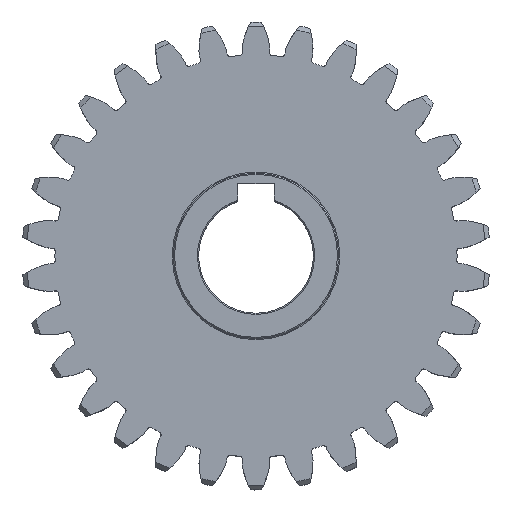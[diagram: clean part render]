
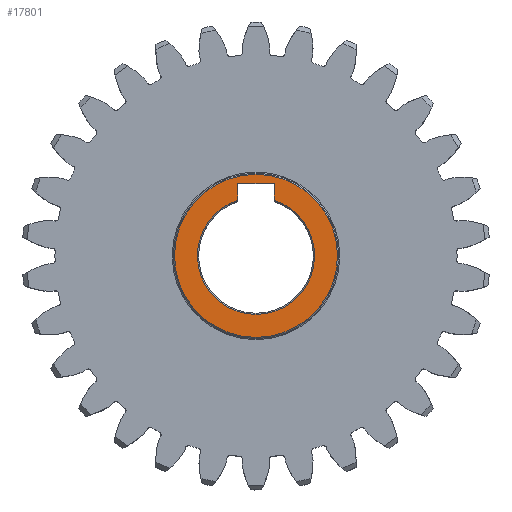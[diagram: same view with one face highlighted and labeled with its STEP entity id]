
A CAD part, top view. The second image highlights one B-rep face of the part: STEP entity #17801.
In plain terms, the highlighted planar face has unit normal (0, 0, 1).
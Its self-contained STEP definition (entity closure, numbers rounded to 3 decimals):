
#922 = EDGE_CURVE ( 'NONE', #5197, #4122, #15928, .T. ) ;
#925 = DIRECTION ( 'NONE',  ( 0., 0., 1. ) ) ;
#937 = CARTESIAN_POINT ( 'NONE',  ( -4., 9.2, 15. ) ) ;
#1031 = AXIS2_PLACEMENT_3D ( 'NONE', #1619, #18072, #15103 ) ;
#1204 = CARTESIAN_POINT ( 'NONE',  ( -4., 15.8, 15. ) ) ;
#1619 = CARTESIAN_POINT ( 'NONE',  ( 0., 0., 15. ) ) ;
#1630 = CARTESIAN_POINT ( 'NONE',  ( -17.75, 0., 15. ) ) ;
#1702 = CIRCLE ( 'NONE', #6774, 12.75 ) ;
#1716 = CARTESIAN_POINT ( 'NONE',  ( 4., 9.2, 15. ) ) ;
#1990 = CIRCLE ( 'NONE', #1031, 17.75 ) ;
#2062 = CARTESIAN_POINT ( 'NONE',  ( 17.75, 0., 15. ) ) ;
#2186 = EDGE_CURVE ( 'NONE', #18225, #15406, #1702, .T. ) ;
#2216 = EDGE_LOOP ( 'NONE', ( #13835, #8787, #2945, #11612, #8286, #9685 ) ) ;
#2595 = VERTEX_POINT ( 'NONE', #3494 ) ;
#2781 = EDGE_CURVE ( 'NONE', #14480, #7865, #8838, .T. ) ;
#2945 = ORIENTED_EDGE ( 'NONE', *, *, #17229, .T. ) ;
#2947 = DIRECTION ( 'NONE',  ( 1., 0., 0. ) ) ;
#3179 = CARTESIAN_POINT ( 'NONE',  ( 0., 0., 15. ) ) ;
#3456 = DIRECTION ( 'NONE',  ( 1., 0., 0. ) ) ;
#3494 = CARTESIAN_POINT ( 'NONE',  ( 12.75, 0., 15. ) ) ;
#3681 = EDGE_LOOP ( 'NONE', ( #4196, #11754 ) ) ;
#3938 = VECTOR ( 'NONE', #17694, 1000. ) ;
#3996 = DIRECTION ( 'NONE',  ( 1., 0., 0. ) ) ;
#4070 = DIRECTION ( 'NONE',  ( 1., 0., 0. ) ) ;
#4122 = VERTEX_POINT ( 'NONE', #2062 ) ;
#4196 = ORIENTED_EDGE ( 'NONE', *, *, #922, .T. ) ;
#4240 = AXIS2_PLACEMENT_3D ( 'NONE', #8508, #15849, #7021 ) ;
#4962 = EDGE_CURVE ( 'NONE', #7394, #2595, #5720, .T. ) ;
#5197 = VERTEX_POINT ( 'NONE', #1630 ) ;
#5720 = CIRCLE ( 'NONE', #15852, 12.75 ) ;
#6264 = DIRECTION ( 'NONE',  ( 0., 0., -1. ) ) ;
#6774 = AXIS2_PLACEMENT_3D ( 'NONE', #3179, #6264, #12301 ) ;
#7021 = DIRECTION ( 'NONE',  ( 1., 0., 0. ) ) ;
#7074 = PLANE ( 'NONE',  #11343 ) ;
#7394 = VERTEX_POINT ( 'NONE', #12639 ) ;
#7865 = VERTEX_POINT ( 'NONE', #18405 ) ;
#8286 = ORIENTED_EDGE ( 'NONE', *, *, #15402, .T. ) ;
#8325 = AXIS2_PLACEMENT_3D ( 'NONE', #18021, #12270, #2947 ) ;
#8508 = CARTESIAN_POINT ( 'NONE',  ( 0., 0., 15. ) ) ;
#8787 = ORIENTED_EDGE ( 'NONE', *, *, #4962, .T. ) ;
#8838 = LINE ( 'NONE', #14983, #13962 ) ;
#9155 = DIRECTION ( 'NONE',  ( 0., -1., 0. ) ) ;
#9685 = ORIENTED_EDGE ( 'NONE', *, *, #2781, .T. ) ;
#9967 = CARTESIAN_POINT ( 'NONE',  ( -4., 12.106, 15. ) ) ;
#10063 = LINE ( 'NONE', #937, #3938 ) ;
#10142 = CARTESIAN_POINT ( 'NONE',  ( 0., 0., 15. ) ) ;
#11343 = AXIS2_PLACEMENT_3D ( 'NONE', #10142, #925, #3996 ) ;
#11612 = ORIENTED_EDGE ( 'NONE', *, *, #2186, .T. ) ;
#11754 = ORIENTED_EDGE ( 'NONE', *, *, #12125, .T. ) ;
#12125 = EDGE_CURVE ( 'NONE', #4122, #5197, #1990, .T. ) ;
#12270 = DIRECTION ( 'NONE',  ( 0., 0., 1. ) ) ;
#12301 = DIRECTION ( 'NONE',  ( 1., 0., 0. ) ) ;
#12479 = CARTESIAN_POINT ( 'NONE',  ( 0., 0., 15. ) ) ;
#12639 = CARTESIAN_POINT ( 'NONE',  ( 4., 12.106, 15. ) ) ;
#13835 = ORIENTED_EDGE ( 'NONE', *, *, #17946, .T. ) ;
#13962 = VECTOR ( 'NONE', #4070, 1000. ) ;
#14480 = VERTEX_POINT ( 'NONE', #1204 ) ;
#14983 = CARTESIAN_POINT ( 'NONE',  ( 4., 15.8, 15. ) ) ;
#15101 = LINE ( 'NONE', #1716, #18630 ) ;
#15103 = DIRECTION ( 'NONE',  ( 1., 0., 0. ) ) ;
#15334 = CIRCLE ( 'NONE', #4240, 12.75 ) ;
#15402 = EDGE_CURVE ( 'NONE', #15406, #14480, #10063, .T. ) ;
#15406 = VERTEX_POINT ( 'NONE', #9967 ) ;
#15849 = DIRECTION ( 'NONE',  ( 0., 0., -1. ) ) ;
#15852 = AXIS2_PLACEMENT_3D ( 'NONE', #12479, #17044, #3456 ) ;
#15928 = CIRCLE ( 'NONE', #8325, 17.75 ) ;
#16001 = FACE_BOUND ( 'NONE', #2216, .T. ) ;
#16393 = FACE_OUTER_BOUND ( 'NONE', #3681, .T. ) ;
#17044 = DIRECTION ( 'NONE',  ( 0., 0., -1. ) ) ;
#17229 = EDGE_CURVE ( 'NONE', #2595, #18225, #15334, .T. ) ;
#17694 = DIRECTION ( 'NONE',  ( 0., 1., 0. ) ) ;
#17801 = ADVANCED_FACE ( 'NONE', ( #16393, #16001 ), #7074, .T. ) ;
#17946 = EDGE_CURVE ( 'NONE', #7865, #7394, #15101, .T. ) ;
#17986 = CARTESIAN_POINT ( 'NONE',  ( -12.75, 0., 15. ) ) ;
#18021 = CARTESIAN_POINT ( 'NONE',  ( 0., 0., 15. ) ) ;
#18072 = DIRECTION ( 'NONE',  ( 0., 0., 1. ) ) ;
#18225 = VERTEX_POINT ( 'NONE', #17986 ) ;
#18405 = CARTESIAN_POINT ( 'NONE',  ( 4., 15.8, 15. ) ) ;
#18630 = VECTOR ( 'NONE', #9155, 1000. ) ;
